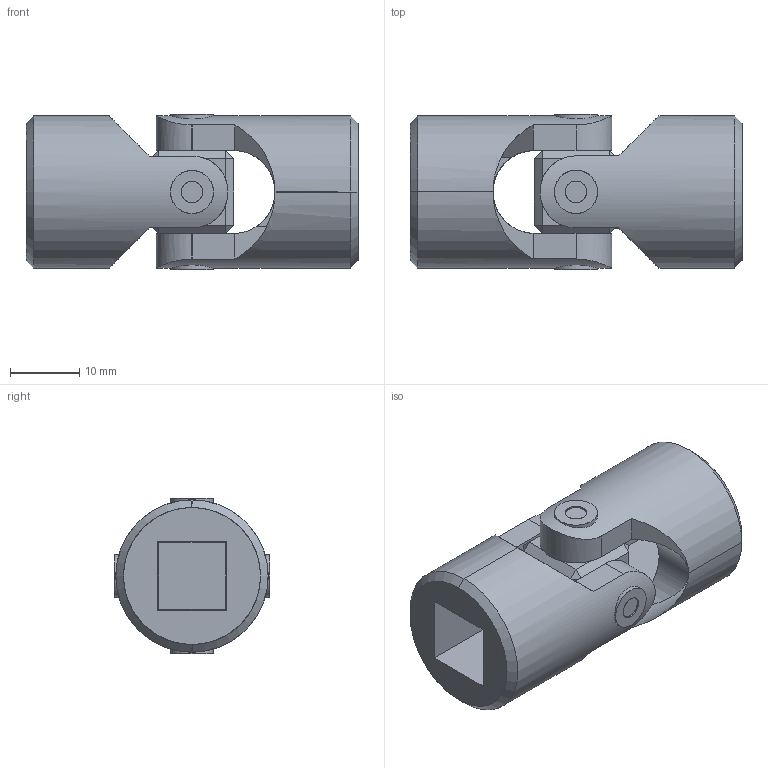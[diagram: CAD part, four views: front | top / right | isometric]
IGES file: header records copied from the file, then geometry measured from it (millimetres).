
Start section: SolidWorks IGES file using analytic representation for surfaces
Global section: file name: C:\Users\IanO\Desktop\R3690_v2\R3690_v2_20231020_IGES\R3690.010-SB.igs; native system: SolidWorks 2019; preprocessor: SolidWorks 2019; author: IanO; date: 231020.152920; units: millimetre
Bounding box: 48 x 22.44 x 22.44 mm (x, y, z)
Surface area: 7664.9 mm2 (no closed solid volume)
Topology: 0 solids, 0 shells, 108 faces, 1984 edges, 1984 vertices
Faces by surface type: bspline 64, revolution 44
